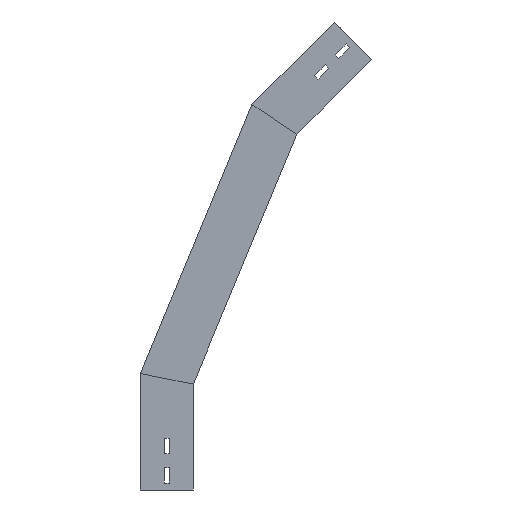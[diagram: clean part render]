
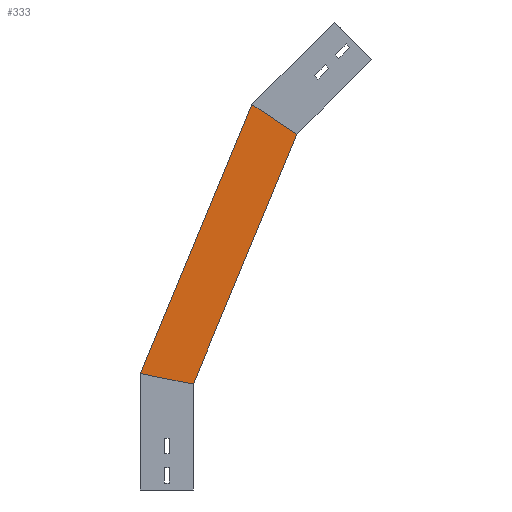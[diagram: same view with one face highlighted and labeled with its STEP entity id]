
A CAD part, left-side view. The second image highlights one B-rep face of the part: STEP entity #333.
In plain terms, the highlighted planar face has unit normal (-1, 0, 0) as drawn and (1, 0, 0) by its records, which use the part's own axes.
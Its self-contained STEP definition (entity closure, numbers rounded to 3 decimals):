
#4 = EDGE_CURVE ( 'NONE', #731, #281, #494, .T. ) ;
#11 = CARTESIAN_POINT ( 'NONE',  ( 0., 6.318, 134.746 ) ) ;
#159 = DIRECTION ( 'NONE',  ( 0., -0.383, 0.924 ) ) ;
#181 = ORIENTED_EDGE ( 'NONE', *, *, #4, .F. ) ;
#197 = CARTESIAN_POINT ( 'NONE',  ( 0., -28.701, 144.291 ) ) ;
#232 = CARTESIAN_POINT ( 'NONE',  ( 0., 75., 164.918 ) ) ;
#281 = VERTEX_POINT ( 'NONE', #587 ) ;
#333 = ADVANCED_FACE ( 'NONE', ( #1047 ), #1378, .T. ) ;
#334 = CARTESIAN_POINT ( 'NONE',  ( 0., 75.609, 163.448 ) ) ;
#337 = DIRECTION ( 'NONE',  ( 0., 0., -1. ) ) ;
#387 = LINE ( 'NONE', #870, #1250 ) ;
#471 = VECTOR ( 'NONE', #159, 1000. ) ;
#478 = EDGE_LOOP ( 'NONE', ( #933, #865, #181, #949 ) ) ;
#494 = LINE ( 'NONE', #970, #471 ) ;
#513 = VECTOR ( 'NONE', #814, 1000. ) ;
#560 = LINE ( 'NONE', #334, #513 ) ;
#587 = CARTESIAN_POINT ( 'NONE',  ( 0., -146.568, 503.846 ) ) ;
#619 = CARTESIAN_POINT ( 'NONE',  ( 0., -82.986, 546.33 ) ) ;
#664 = VECTOR ( 'NONE', #1472, 1000. ) ;
#686 = EDGE_CURVE ( 'NONE', #1116, #1316, #560, .T. ) ;
#731 = VERTEX_POINT ( 'NONE', #1389 ) ;
#753 = LINE ( 'NONE', #197, #664 ) ;
#814 = DIRECTION ( 'NONE',  ( 0., -0.383, 0.924 ) ) ;
#865 = ORIENTED_EDGE ( 'NONE', *, *, #1358, .T. ) ;
#870 = CARTESIAN_POINT ( 'NONE',  ( 0., -211.373, 460.544 ) ) ;
#933 = ORIENTED_EDGE ( 'NONE', *, *, #686, .T. ) ;
#940 = DIRECTION ( 'NONE',  ( 1., 0., 0. ) ) ;
#949 = ORIENTED_EDGE ( 'NONE', *, *, #1425, .F. ) ;
#970 = CARTESIAN_POINT ( 'NONE',  ( 0., 6.318, 134.746 ) ) ;
#1047 = FACE_OUTER_BOUND ( 'NONE', #478, .T. ) ;
#1116 = VERTEX_POINT ( 'NONE', #232 ) ;
#1250 = VECTOR ( 'NONE', #1331, 1000. ) ;
#1280 = AXIS2_PLACEMENT_3D ( 'NONE', #11, #940, #337 ) ;
#1316 = VERTEX_POINT ( 'NONE', #619 ) ;
#1331 = DIRECTION ( 'NONE',  ( 0., -0.831, -0.556 ) ) ;
#1358 = EDGE_CURVE ( 'NONE', #1316, #281, #387, .T. ) ;
#1378 = PLANE ( 'NONE',  #1280 ) ;
#1389 = CARTESIAN_POINT ( 'NONE',  ( 0., 0., 150. ) ) ;
#1425 = EDGE_CURVE ( 'NONE', #1116, #731, #753, .T. ) ;
#1472 = DIRECTION ( 'NONE',  ( 0., -0.981, -0.195 ) ) ;
